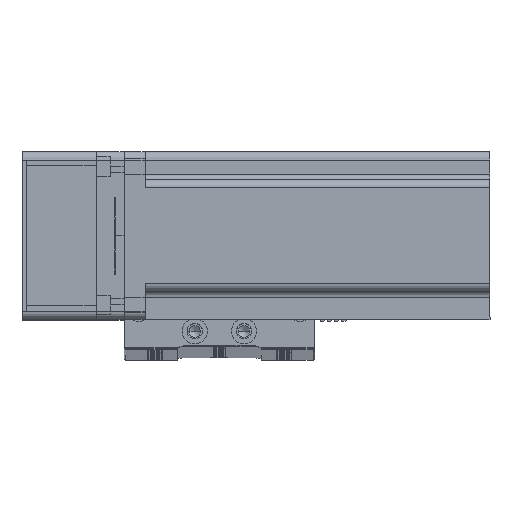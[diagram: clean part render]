
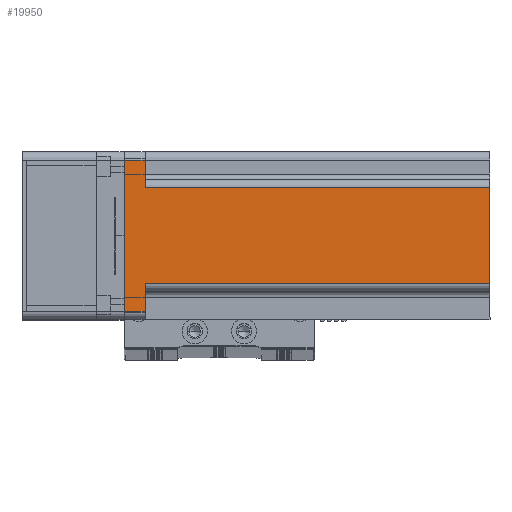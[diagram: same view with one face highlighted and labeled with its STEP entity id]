
A CAD part, top view. The second image highlights one B-rep face of the part: STEP entity #19950.
In plain terms, the highlighted planar face has unit normal (0, 0, 1) as drawn and (0, 1, 0) by its records, which use the part's own axes.
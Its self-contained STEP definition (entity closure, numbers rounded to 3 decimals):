
#1774 = CARTESIAN_POINT ( 'NONE',  ( 17., 30., 7.5 ) ) ;
#4370 = FACE_OUTER_BOUND ( 'NONE', #10531, .T. ) ;
#6838 = DIRECTION ( 'NONE',  ( 0., -1., 0. ) ) ;
#8255 = ORIENTED_EDGE ( 'NONE', *, *, #26667, .T. ) ;
#10531 = EDGE_LOOP ( 'NONE', ( #40586, #8255, #50814, #54416, #23395, #45549, #42915, #22263 ) ) ;
#11991 = PLANE ( 'NONE',  #14287 ) ;
#12025 = CARTESIAN_POINT ( 'NONE',  ( -27., 30., 130.7 ) ) ;
#12041 = VECTOR ( 'NONE', #15056, 1000. ) ;
#12442 = VECTOR ( 'NONE', #67487, 1000. ) ;
#13698 = VERTEX_POINT ( 'NONE', #58302 ) ;
#14287 = AXIS2_PLACEMENT_3D ( 'NONE', #40681, #6838, #46355 ) ;
#15056 = DIRECTION ( 'NONE',  ( 1., 0., 0. ) ) ;
#17243 = LINE ( 'NONE', #43167, #45555 ) ;
#17697 = DIRECTION ( 'NONE',  ( 0., 0., 1. ) ) ;
#18980 = EDGE_CURVE ( 'NONE', #50128, #69960, #57494, .T. ) ;
#19950 = ADVANCED_FACE ( 'NONE', ( #4370 ), #11991, .F. ) ;
#20764 = CARTESIAN_POINT ( 'NONE',  ( -20., 30., 7.5 ) ) ;
#21284 = CARTESIAN_POINT ( 'NONE',  ( -17., 30., 7.5 ) ) ;
#22263 = ORIENTED_EDGE ( 'NONE', *, *, #51789, .T. ) ;
#23395 = ORIENTED_EDGE ( 'NONE', *, *, #41825, .F. ) ;
#24339 = DIRECTION ( 'NONE',  ( 0., 0., -1. ) ) ;
#24367 = LINE ( 'NONE', #44256, #67673 ) ;
#25078 = LINE ( 'NONE', #65041, #53398 ) ;
#25476 = CARTESIAN_POINT ( 'NONE',  ( 30., 30., 130.7 ) ) ;
#25514 = DIRECTION ( 'NONE',  ( -1., 0., 0. ) ) ;
#26667 = EDGE_CURVE ( 'NONE', #68739, #69960, #70742, .T. ) ;
#27311 = CARTESIAN_POINT ( 'NONE',  ( -27., 30., 0. ) ) ;
#31213 = VERTEX_POINT ( 'NONE', #1774 ) ;
#33698 = CARTESIAN_POINT ( 'NONE',  ( -17., 30., 130.7 ) ) ;
#35471 = VERTEX_POINT ( 'NONE', #27311 ) ;
#36125 = EDGE_CURVE ( 'NONE', #64232, #35471, #24367, .T. ) ;
#40586 = ORIENTED_EDGE ( 'NONE', *, *, #63296, .T. ) ;
#40681 = CARTESIAN_POINT ( 'NONE',  ( 30., 30., 130.7 ) ) ;
#41825 = EDGE_CURVE ( 'NONE', #13698, #31213, #25078, .T. ) ;
#42445 = VECTOR ( 'NONE', #59530, 1000. ) ;
#42915 = ORIENTED_EDGE ( 'NONE', *, *, #36125, .T. ) ;
#43167 = CARTESIAN_POINT ( 'NONE',  ( 27., 30., 130.7 ) ) ;
#44256 = CARTESIAN_POINT ( 'NONE',  ( 30., 30., 0. ) ) ;
#44885 = CARTESIAN_POINT ( 'NONE',  ( 17., 30., 130.7 ) ) ;
#45204 = EDGE_CURVE ( 'NONE', #50128, #31213, #71141, .T. ) ;
#45549 = ORIENTED_EDGE ( 'NONE', *, *, #60324, .T. ) ;
#45555 = VECTOR ( 'NONE', #65338, 1000. ) ;
#46355 = DIRECTION ( 'NONE',  ( 1., 0., 0. ) ) ;
#47503 = VECTOR ( 'NONE', #17697, 1000. ) ;
#48605 = CARTESIAN_POINT ( 'NONE',  ( -27., 30., 7.5 ) ) ;
#50128 = VERTEX_POINT ( 'NONE', #44885 ) ;
#50814 = ORIENTED_EDGE ( 'NONE', *, *, #18980, .F. ) ;
#51209 = DIRECTION ( 'NONE',  ( -1., 0., 0. ) ) ;
#51789 = EDGE_CURVE ( 'NONE', #35471, #64133, #62513, .T. ) ;
#53398 = VECTOR ( 'NONE', #25514, 1000. ) ;
#54416 = ORIENTED_EDGE ( 'NONE', *, *, #45204, .T. ) ;
#57181 = LINE ( 'NONE', #20764, #12041 ) ;
#57494 = LINE ( 'NONE', #25476, #42445 ) ;
#58302 = CARTESIAN_POINT ( 'NONE',  ( 27., 30., 7.5 ) ) ;
#59530 = DIRECTION ( 'NONE',  ( -1., 0., 0. ) ) ;
#60324 = EDGE_CURVE ( 'NONE', #13698, #64232, #17243, .T. ) ;
#61406 = CARTESIAN_POINT ( 'NONE',  ( 27., 30., 0. ) ) ;
#62513 = LINE ( 'NONE', #12025, #47503 ) ;
#63296 = EDGE_CURVE ( 'NONE', #64133, #68739, #57181, .T. ) ;
#64133 = VERTEX_POINT ( 'NONE', #48605 ) ;
#64232 = VERTEX_POINT ( 'NONE', #61406 ) ;
#65041 = CARTESIAN_POINT ( 'NONE',  ( 20., 30., 7.5 ) ) ;
#65338 = DIRECTION ( 'NONE',  ( 0., 0., -1. ) ) ;
#65857 = CARTESIAN_POINT ( 'NONE',  ( -17., 30., 130.7 ) ) ;
#67487 = DIRECTION ( 'NONE',  ( 0., 0., 1. ) ) ;
#67673 = VECTOR ( 'NONE', #51209, 1000. ) ;
#68739 = VERTEX_POINT ( 'NONE', #21284 ) ;
#69406 = VECTOR ( 'NONE', #24339, 1000. ) ;
#69542 = CARTESIAN_POINT ( 'NONE',  ( 17., 30., 130.7 ) ) ;
#69960 = VERTEX_POINT ( 'NONE', #65857 ) ;
#70742 = LINE ( 'NONE', #33698, #12442 ) ;
#71141 = LINE ( 'NONE', #69542, #69406 ) ;
